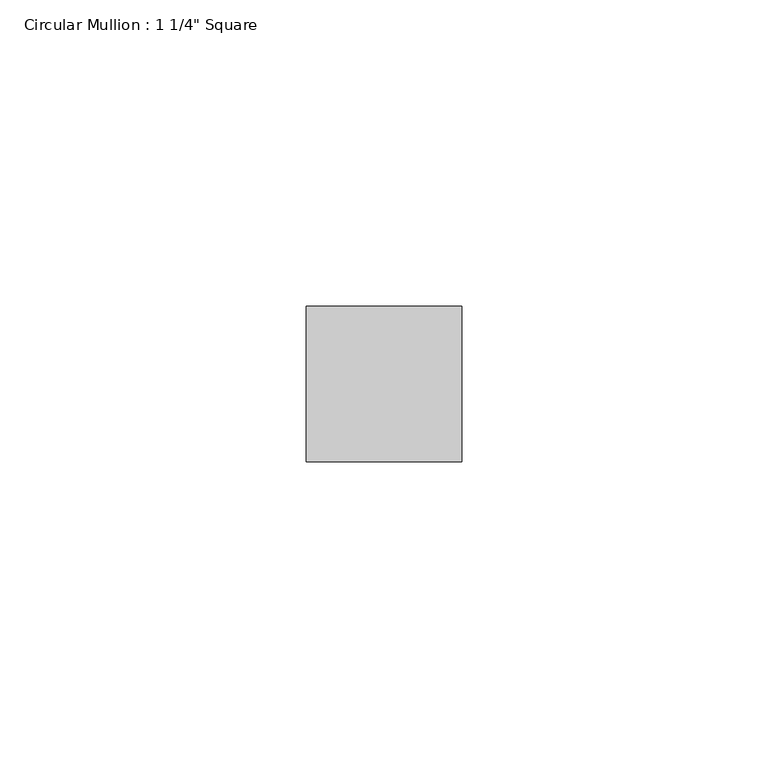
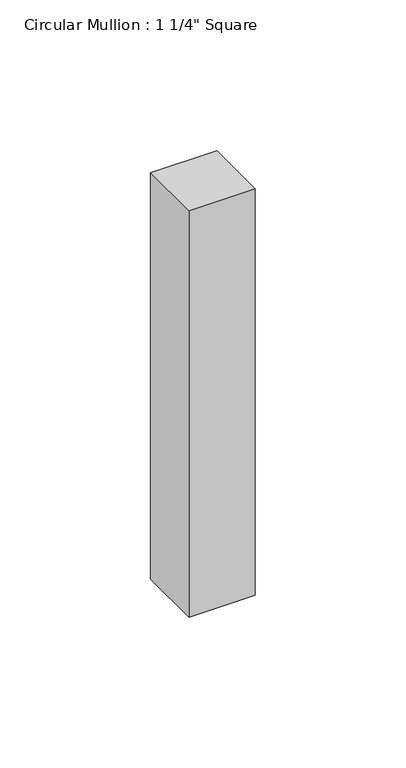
"""IFC4 building model written with IfcOpenShell, lengths in millimetres: member geometry."""

from ifc_helpers import new_model, si_unit, frame, origin, place, context, project, spatial, polyline, outline, extrude, source, transform, mapped, element, save


def member_bbda502c(model_context):
    return source(origin(), model_context, "Body", "SweptSolid", [
        extrude(outline(polyline([(0.0, 12.7), (0.0, -12.7), (-25.4, -12.7), (-25.4, 12.7), (0.0, 12.7)])), frame((0.0, 0.0, -164.595098), z_axis=(0.0, 0.0, 1.0), x_axis=(1.0, 0.0, 0.0)), (0.0, 0.0, 1.0), 164.595098),
    ])


if __name__ == "__main__":
    model = new_model("IFC4")
    model_context = context("Model", 3, world=origin())
    ifc_project = project(units=[si_unit("LENGTHUNIT", "METRE", prefix="MILLI")], contexts=[model_context])
    site = spatial("IfcSite", under=ifc_project)
    building = spatial("IfcBuilding", under=site)
    placement = place(None, origin())
    member_shape = member_bbda502c(model_context)
    element("IfcMember", 1, ObjectType="Circular Mullion : 1 1/4\" Square", at=placement, inside=building, context=model_context, shape_type="MappedRepresentation", body=[
        mapped(member_shape, transform((0.0, 0.0, 0.0), x_axis=(1.0, 0.0, 0.0), y_axis=(0.0, 1.0, 0.0), z_axis=(0.0, 0.0, 1.0))),
    ])
    save(model, "model.ifc")
